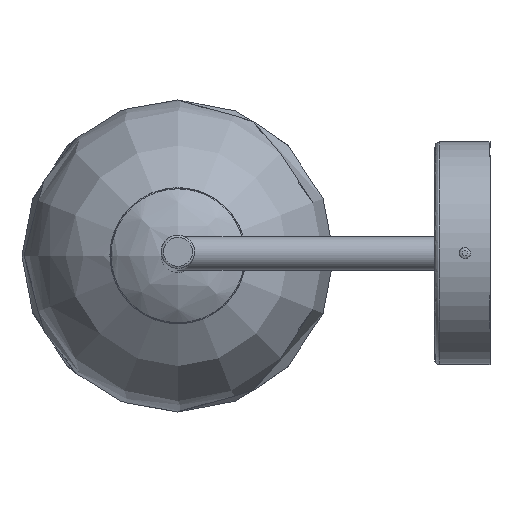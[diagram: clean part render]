
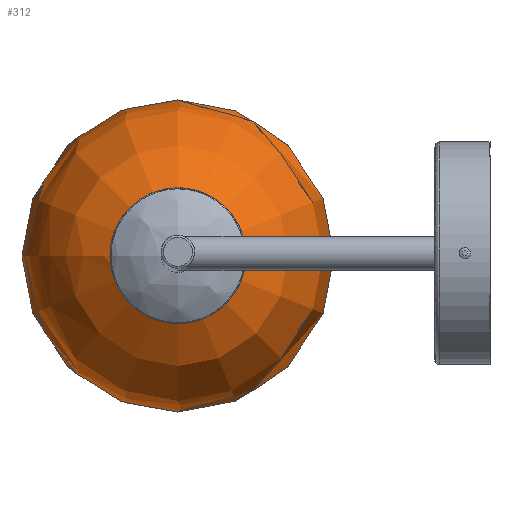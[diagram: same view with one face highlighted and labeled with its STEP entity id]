
A CAD part, top view. The second image highlights one B-rep face of the part: STEP entity #312.
In plain terms, the highlighted free-form (B-spline) face has degree [2, 2] with [9, 5] control points.
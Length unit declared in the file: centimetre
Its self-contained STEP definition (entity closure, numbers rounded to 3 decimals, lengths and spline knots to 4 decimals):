
#251 = CARTESIAN_POINT ('', (-3., 0., 0.));
#252 = VERTEX_POINT ('', #251);
#253 = CARTESIAN_POINT ('', (-3., 0., 14.));
#254 = VERTEX_POINT ('', #253);
#255 = CARTESIAN_POINT ('', (-3., 0., 0.));
#256 = CARTESIAN_POINT ('', (-10., 0., 0.));
#257 = CARTESIAN_POINT ('', (-10., 0., 7.));
#258 = CARTESIAN_POINT ('', (-10., 0., 14.));
#259 = CARTESIAN_POINT ('', (-3., 0., 14.));
#260 = (
   BOUNDED_CURVE ()
   B_SPLINE_CURVE (2, (#255, #256, #257, #258, #259), .UNSPECIFIED., .F., .U.)
   B_SPLINE_CURVE_WITH_KNOTS ((3, 2, 3), (0., 0.5, 1.), .UNSPECIFIED.)
   CURVE ()
   GEOMETRIC_REPRESENTATION_ITEM ()
   RATIONAL_B_SPLINE_CURVE ((1., 0.707, 1., 0.707, 1.))
   REPRESENTATION_ITEM ('')
);
#261 = EDGE_CURVE ('', #252, #254, #260, .T.);
#262 = ORIENTED_EDGE ('', *, *, #261, .F.);
#263 = ORIENTED_EDGE ('', *, *, #261, .T.);
#264 = EDGE_LOOP ('', (#262, #263));
#265 = FACE_OUTER_BOUND ('', #264, .T.);
#266 = CARTESIAN_POINT ('', (-3., 0., 0.));
#267 = CARTESIAN_POINT ('', (-10., 0., 0.));
#268 = CARTESIAN_POINT ('', (-10., 0., 7.));
#269 = CARTESIAN_POINT ('', (-10., 0., 14.));
#270 = CARTESIAN_POINT ('', (-3., 0., 14.));
#271 = CARTESIAN_POINT ('', (-3., 0., 0.));
#272 = CARTESIAN_POINT ('', (-10., -7., 0.));
#273 = CARTESIAN_POINT ('', (-10., -7., 7.));
#274 = CARTESIAN_POINT ('', (-10., -7., 14.));
#275 = CARTESIAN_POINT ('', (-3., 0., 14.));
#276 = CARTESIAN_POINT ('', (-3., 0., 0.));
#277 = CARTESIAN_POINT ('', (-3., -7., 0.));
#278 = CARTESIAN_POINT ('', (-3., -7., 7.));
#279 = CARTESIAN_POINT ('', (-3., -7., 14.));
#280 = CARTESIAN_POINT ('', (-3., 0., 14.));
#281 = CARTESIAN_POINT ('', (-3., 0., 0.));
#282 = CARTESIAN_POINT ('', (4., -7., 0.));
#283 = CARTESIAN_POINT ('', (4., -7., 7.));
#284 = CARTESIAN_POINT ('', (4., -7., 14.));
#285 = CARTESIAN_POINT ('', (-3., 0., 14.));
#286 = CARTESIAN_POINT ('', (-3., 0., 0.));
#287 = CARTESIAN_POINT ('', (4., 0., 0.));
#288 = CARTESIAN_POINT ('', (4., 0., 7.));
#289 = CARTESIAN_POINT ('', (4., 0., 14.));
#290 = CARTESIAN_POINT ('', (-3., 0., 14.));
#291 = CARTESIAN_POINT ('', (-3., 0., 0.));
#292 = CARTESIAN_POINT ('', (4., 7., 0.));
#293 = CARTESIAN_POINT ('', (4., 7., 7.));
#294 = CARTESIAN_POINT ('', (4., 7., 14.));
#295 = CARTESIAN_POINT ('', (-3., 0., 14.));
#296 = CARTESIAN_POINT ('', (-3., 0., 0.));
#297 = CARTESIAN_POINT ('', (-3., 7., 0.));
#298 = CARTESIAN_POINT ('', (-3., 7., 7.));
#299 = CARTESIAN_POINT ('', (-3., 7., 14.));
#300 = CARTESIAN_POINT ('', (-3., 0., 14.));
#301 = CARTESIAN_POINT ('', (-3., 0., 0.));
#302 = CARTESIAN_POINT ('', (-10., 7., 0.));
#303 = CARTESIAN_POINT ('', (-10., 7., 7.));
#304 = CARTESIAN_POINT ('', (-10., 7., 14.));
#305 = CARTESIAN_POINT ('', (-3., 0., 14.));
#306 = CARTESIAN_POINT ('', (-3., 0., 0.));
#307 = CARTESIAN_POINT ('', (-10., 0., 0.));
#308 = CARTESIAN_POINT ('', (-10., 0., 7.));
#309 = CARTESIAN_POINT ('', (-10., 0., 14.));
#310 = CARTESIAN_POINT ('', (-3., 0., 14.));
#311 = (
   BOUNDED_SURFACE ()
   B_SPLINE_SURFACE (2, 2, ((#266, #267, #268, #269, #270), (#271, #272, #273, #274, #275), (#276, #277, #278, #279, #280), (#281, #282, #283, #284, #285), (#286, #287, #288, #289, #290), (#291, #292, #293, #294, #295), (#296, #297, #298, #299, #300), (#301, #302, #303, #304, #305), (#306, #307, #308, #309, #310)), .UNSPECIFIED., .T., .F., .U.)
   B_SPLINE_SURFACE_WITH_KNOTS ((3, 2, 2, 2, 3), (3, 2, 3), (0., 0.25, 0.5, 0.75, 1.), (0., 0.5, 1.), .UNSPECIFIED.)
   SURFACE ()
   GEOMETRIC_REPRESENTATION_ITEM ()
   RATIONAL_B_SPLINE_SURFACE (((1., 0.707, 1., 0.707, 1.), (0.707, 0.5, 0.707, 0.5, 0.707), (1., 0.707, 1., 0.707, 1.), (0.707, 0.5, 0.707, 0.5, 0.707), (1., 0.707, 1., 0.707, 1.), (0.707, 0.5, 0.707, 0.5, 0.707), (1., 0.707, 1., 0.707, 1.), (0.707, 0.5, 0.707, 0.5, 0.707), (1., 0.707, 1., 0.707, 1.)))
   REPRESENTATION_ITEM ('')
);
#312 = ADVANCED_FACE ('', (#265), #311, .T.);
